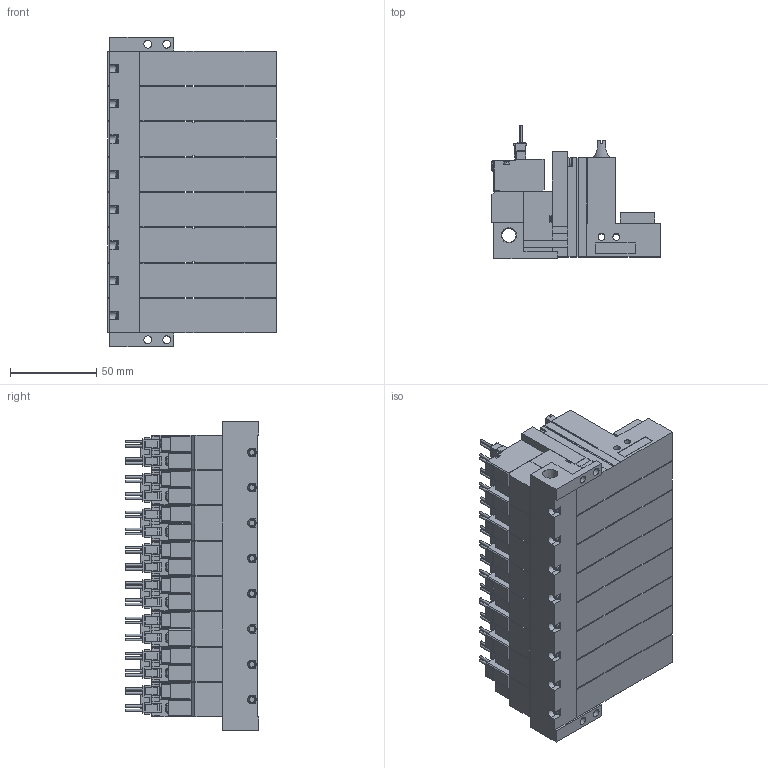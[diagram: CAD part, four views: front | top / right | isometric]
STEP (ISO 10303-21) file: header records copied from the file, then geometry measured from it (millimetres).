
FILE_DESCRIPTION(('STEP AP203'),'1');
FILE_NAME('ZLC5ALR808.stp','2025-02-25T05:00:42',(' '),(' '),'Spatial InterOp 3D',' ',' ');
FILE_SCHEMA(('CONFIG_CONTROL_DESIGN'));
Length unit declared in the file: millimetre
Products named in the file (5): BMC22M※※※※ZLC5ALR808; Solenoid valve A; Pressure sensor ZLC; Unit LC; Base MR80R
Assembly tree (25 placements, depth 2):
  BMC22M※※※※ZLC5ALR808
    Solenoid valve A  x8
    Pressure sensor ZLC  x8
    Unit LC  x8
    Base MR80R
Bounding box: 97.6 x 77.45 x 179.5 mm (x, y, z)
Volume: 717822.7 mm3; surface area: 189699.6 mm2
Topology: 25 solids, 25 shells, 3077 faces, 8347 edges, 5472 vertices
Faces by surface type: plane 2654, cylinder 325, cone 58, torus 40
Full cylindrical faces by diameter (mm): 1.4 x32, 2.5 x8, 3 x32, 3.5 x32, 3.6 x8, 4 x16, 4.134 x8, 4.5 x4, 5.2 x8, 6 x8, 6.6 x8, 8.279 x1
Entity records: 16035 total; most frequent: CARTESIAN_POINT 3148, DIRECTION 2549, ORIENTED_EDGE 2466, EDGE_CURVE 1233, LINE 985, VECTOR 985, VERTEX_POINT 865, AXIS2_PLACEMENT_3D 782
